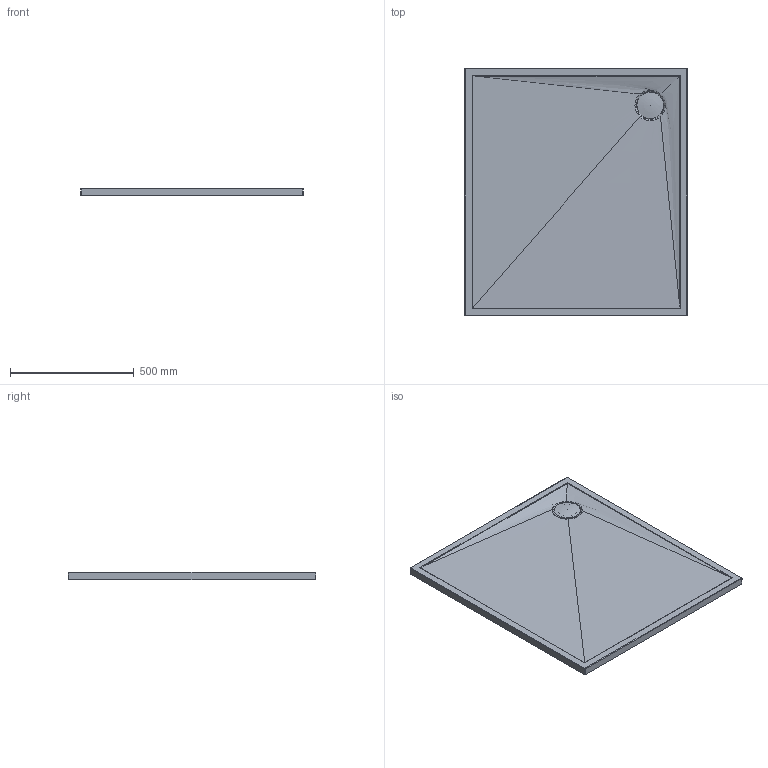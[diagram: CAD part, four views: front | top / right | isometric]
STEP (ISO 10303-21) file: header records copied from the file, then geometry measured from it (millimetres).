
FILE_DESCRIPTION(/* description */ (''),/* implementation_level */ '2;1');
FILE_NAME(/* name */ 'c:\worker\convert-fusion-r02\tmp\job-1\31\output\files\3e5c7a86-a4bf-425e-98ff-595a19f54307\98019f9a-d634-416a-b27e-126f77e44687.stp',/* time_stamp */ '2020-03-20T10:48:55+00:00',/* author */ (''),/* organization */ (''),/* preprocessor_version */ 'ST-DEVELOPER v18',/* originating_system */ 'Autodesk Translation Framework v8.12.0.6',/* authorisation */ '');
FILE_SCHEMA (('AUTOMOTIVE_DESIGN { 1 0 10303 214 3 1 1 }'));
Length unit declared in the file: millimetre
Products named in the file (1): 90x100
Bounding box: 900 x 1000 x 30 mm (x, y, z)
Volume: 22479676.4 mm3; surface area: 1924289.5 mm2
Topology: 2 solids, 2 shells, 34 faces, 88 edges, 57 vertices
Faces by surface type: cylinder 10, bspline 9, plane 8, sphere 4, torus 2, cone 1
Full cylindrical faces by diameter (mm): 80.658 x1, 90 x1
Entity records: 1377 total; most frequent: CARTESIAN_POINT 546, ORIENTED_EDGE 172, DIRECTION 157, EDGE_CURVE 86, AXIS2_PLACEMENT_3D 65, VERTEX_POINT 57, CIRCLE 39, EDGE_LOOP 37
